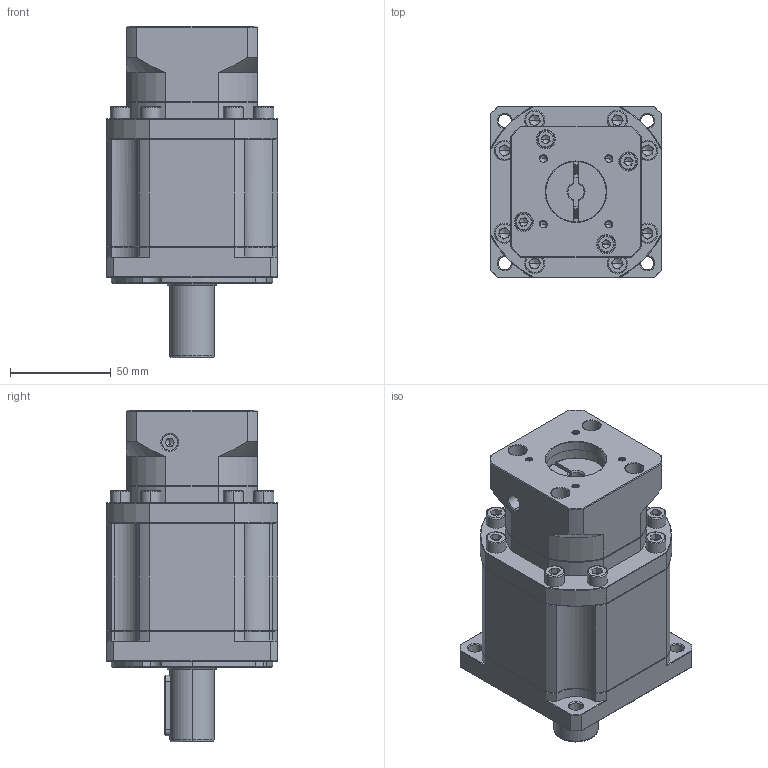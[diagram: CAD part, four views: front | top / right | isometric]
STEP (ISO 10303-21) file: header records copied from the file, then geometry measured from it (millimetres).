
FILE_DESCRIPTION (( 'STEP AP214' ), '1' );
FILE_NAME ('ZB90-D22-L3-8-30-46-M4.STEP', '2022-05-02T15:11:13', ( '' ), ( 'Microsoft' ), 'SwSTEP 2.0', 'SolidWorks 2016', '' );
FILE_SCHEMA (( 'AUTOMOTIVE_DESIGN' ));
Length unit declared in the file: millimetre
Products named in the file (1): ZB90-D22-L3-8-30-46-M4
Bounding box: 85 x 85 x 164.5 mm (x, y, z)
Volume: 673862.7 mm3; surface area: 82767.3 mm2
Topology: 6 solids, 6 shells, 2072 faces, 5430 edges, 3449 vertices
Faces by surface type: plane 1005, cylinder 394, bspline 328, cone 323, torus 22
Entity records: 107261 total; most frequent: CARTESIAN_POINT 36105, ORIENTED_EDGE 10768, DIRECTION 8911, EDGE_CURVE 5384, VERTEX_POINT 3449, VECTOR 3303, LINE 3303, AXIS2_PLACEMENT_3D 2804
